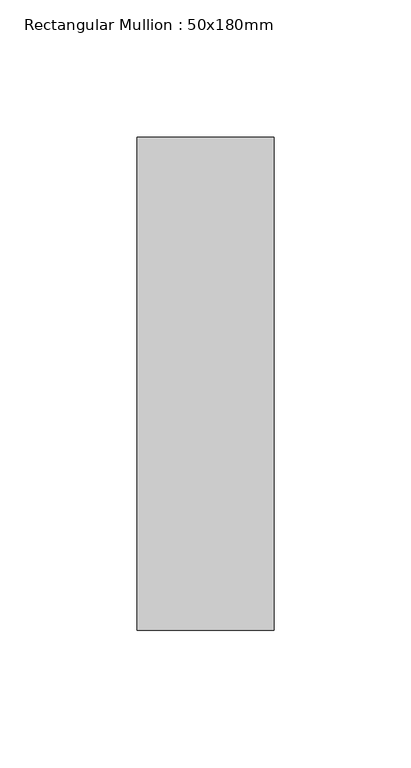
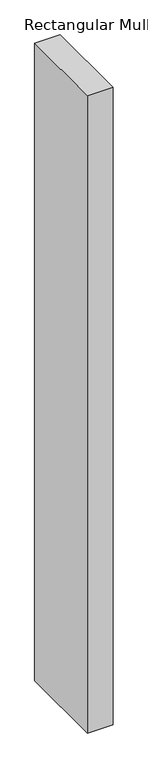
"""IFC4 building model written with IfcOpenShell, lengths in millimetres: member geometry, Rectangular Mullion : 50x180mm."""

from ifc_helpers import new_model, si_unit, frame, origin, place, context, project, spatial, polyline, outline, extrude, source, transform, mapped, element, save


def rectangular_mullion_50x180mm_0f748c27(model_context):
    return source(origin(), model_context, "Body", "SweptSolid", [
        extrude(outline(polyline([(0.0, 90.0), (0.0, -90.0), (-50.0, -90.0), (-50.0, 90.0), (0.0, 90.0)])), frame((0.0, 0.0, -1325.1153519), z_axis=(0.0, 0.0, 1.0), x_axis=(1.0, 0.0, 0.0)), (0.0, 0.0, 1.0), 1325.1153519),
    ])


if __name__ == "__main__":
    model = new_model("IFC4")
    model_context = context("Model", 3, world=origin())
    ifc_project = project(units=[si_unit("LENGTHUNIT", "METRE", prefix="MILLI")], contexts=[model_context])
    site = spatial("IfcSite", under=ifc_project)
    building = spatial("IfcBuilding", under=site)
    placement = place(None, origin())
    rectangular_mullion_50x180mm_shape = rectangular_mullion_50x180mm_0f748c27(model_context)
    element("IfcMember", 1, ObjectType="Rectangular Mullion : 50x180mm", at=placement, inside=building, context=model_context, shape_type="MappedRepresentation", body=[
        mapped(rectangular_mullion_50x180mm_shape, transform((0.0, 0.0, 0.0), x_axis=(1.0, 0.0, 0.0), y_axis=(0.0, 1.0, 0.0), z_axis=(0.0, 0.0, 1.0))),
    ])
    save(model, "model.ifc")
